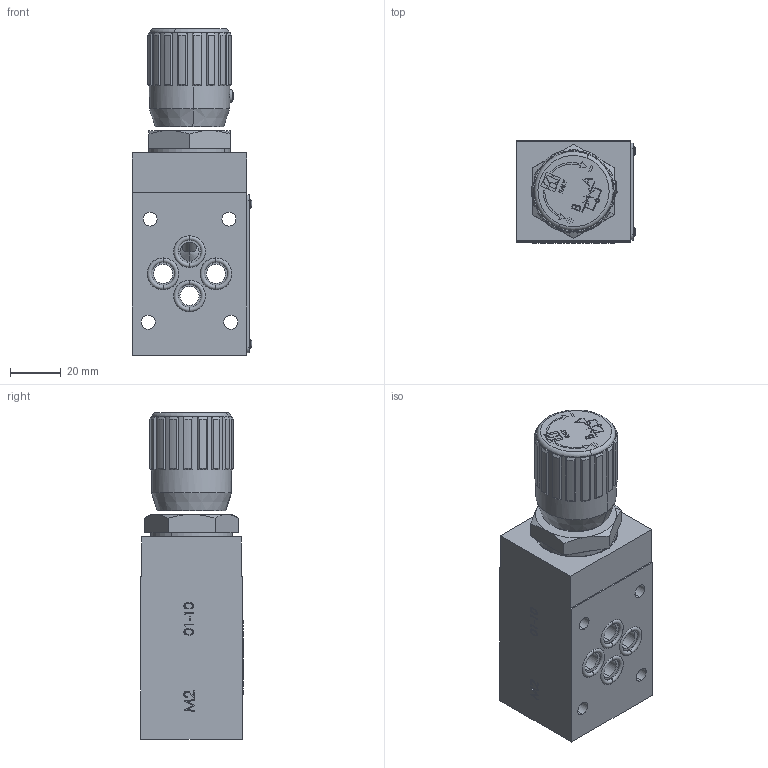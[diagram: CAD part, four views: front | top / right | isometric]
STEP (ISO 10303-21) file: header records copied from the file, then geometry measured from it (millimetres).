
FILE_DESCRIPTION (( 'STEP AP214' ), '1' );
FILE_NAME ('357-5-A-03-H.STEP', '2015-05-18T07:57:58', ( '' ), ( '' ), 'SwSTEP 2.0', 'SolidWorks 2014', '' );
FILE_SCHEMA (( 'AUTOMOTIVE_DESIGN' ));
Length unit declared in the file: millimetre
Products named in the file (1): 357-5-A-03-H
Bounding box: 46.96 x 40.38 x 128.3 mm (x, y, z)
Surface area: 32276 mm2 (no closed solid volume)
Topology: 0 solids, 44 shells, 826 faces, 3881 edges, 2989 vertices
Faces by surface type: plane 495, bspline 136, cylinder 116, cone 53, torus 26
Entity records: 62258 total; most frequent: CARTESIAN_POINT 24560, ORIENTED_EDGE 5466, DIRECTION 4866, EDGE_CURVE 3879, VERTEX_POINT 2989, LINE 2632, VECTOR 2632, AXIS2_PLACEMENT_3D 1117
